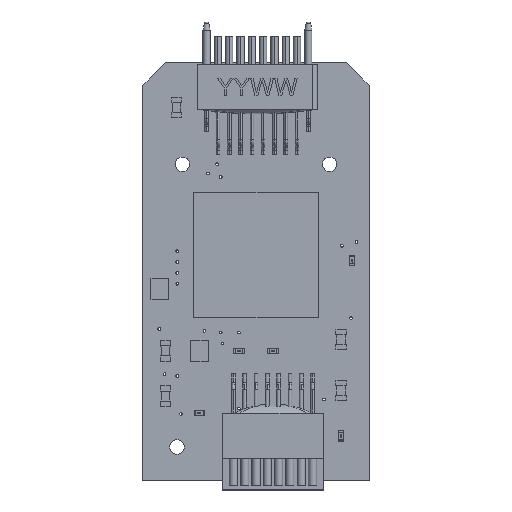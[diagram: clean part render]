
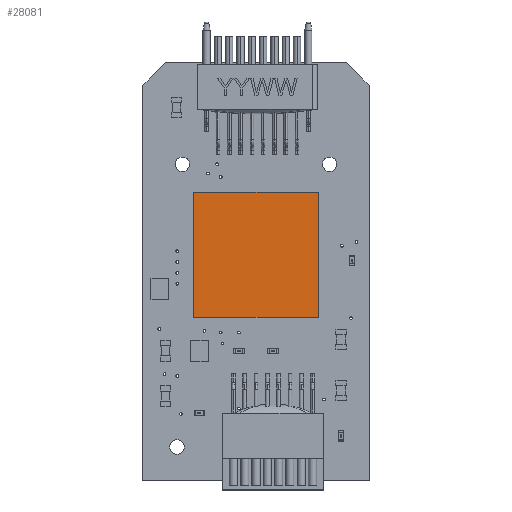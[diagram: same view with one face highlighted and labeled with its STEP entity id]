
A CAD part, top view. The second image highlights one B-rep face of the part: STEP entity #28081.
In plain terms, the highlighted planar face has unit normal (0, 0, 1) as drawn and (0, 1, 0) by its records, which use the part's own axes.
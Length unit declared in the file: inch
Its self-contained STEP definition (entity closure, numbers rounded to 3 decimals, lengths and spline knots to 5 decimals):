
#453 = EDGE_CURVE ( 'NONE', #14017, #23644, #18255, .T. ) ;
#987 = DIRECTION ( 'NONE',  ( 0., 0., 1. ) ) ;
#1572 = VECTOR ( 'NONE', #987, 39.37008 ) ;
#7036 = ORIENTED_EDGE ( 'NONE', *, *, #22388, .T. ) ;
#7707 = LINE ( 'NONE', #17307, #1572 ) ;
#8414 = CARTESIAN_POINT ( 'NONE',  ( 0., 0.03346, 0. ) ) ;
#9252 = VECTOR ( 'NONE', #15994, 39.37008 ) ;
#9638 = LINE ( 'NONE', #18396, #18819 ) ;
#10082 = CARTESIAN_POINT ( 'NONE',  ( 0., 0.03346, 0. ) ) ;
#12972 = DIRECTION ( 'NONE',  ( 0., 0., -1. ) ) ;
#13891 = ORIENTED_EDGE ( 'NONE', *, *, #35449, .T. ) ;
#14017 = VERTEX_POINT ( 'NONE', #31592 ) ;
#15813 = AXIS2_PLACEMENT_3D ( 'NONE', #29060, #35106, #12972 ) ;
#15994 = DIRECTION ( 'NONE',  ( 1., 0., 0. ) ) ;
#17307 = CARTESIAN_POINT ( 'NONE',  ( 0., 0.03346, 0. ) ) ;
#18095 = ORIENTED_EDGE ( 'NONE', *, *, #20148, .T. ) ;
#18255 = LINE ( 'NONE', #34311, #37010 ) ;
#18396 = CARTESIAN_POINT ( 'NONE',  ( 0., 0.03346, -0.27559 ) ) ;
#18819 = VECTOR ( 'NONE', #28397, 39.37008 ) ;
#20148 = EDGE_CURVE ( 'NONE', #35334, #14017, #22927, .T. ) ;
#21781 = ORIENTED_EDGE ( 'NONE', *, *, #453, .T. ) ;
#22388 = EDGE_CURVE ( 'NONE', #37115, #35334, #7707, .T. ) ;
#22927 = LINE ( 'NONE', #10082, #9252 ) ;
#23644 = VERTEX_POINT ( 'NONE', #33533 ) ;
#25257 = EDGE_LOOP ( 'NONE', ( #7036, #18095, #21781, #13891 ) ) ;
#25622 = PLANE ( 'NONE',  #15813 ) ;
#28081 = ADVANCED_FACE ( 'NONE', ( #28262 ), #25622, .F. ) ;
#28262 = FACE_OUTER_BOUND ( 'NONE', #25257, .T. ) ;
#28397 = DIRECTION ( 'NONE',  ( -1., 0., 0. ) ) ;
#29060 = CARTESIAN_POINT ( 'NONE',  ( 0., 0.03346, 0. ) ) ;
#29491 = CARTESIAN_POINT ( 'NONE',  ( 0., 0.03346, -0.27559 ) ) ;
#31592 = CARTESIAN_POINT ( 'NONE',  ( 0.27559, 0.03346, 0. ) ) ;
#33530 = DIRECTION ( 'NONE',  ( 0., 0., -1. ) ) ;
#33533 = CARTESIAN_POINT ( 'NONE',  ( 0.27559, 0.03346, -0.27559 ) ) ;
#34311 = CARTESIAN_POINT ( 'NONE',  ( 0.27559, 0.03346, 0. ) ) ;
#35106 = DIRECTION ( 'NONE',  ( 0., -1., 0. ) ) ;
#35334 = VERTEX_POINT ( 'NONE', #8414 ) ;
#35449 = EDGE_CURVE ( 'NONE', #23644, #37115, #9638, .T. ) ;
#37010 = VECTOR ( 'NONE', #33530, 39.37008 ) ;
#37115 = VERTEX_POINT ( 'NONE', #29491 ) ;
